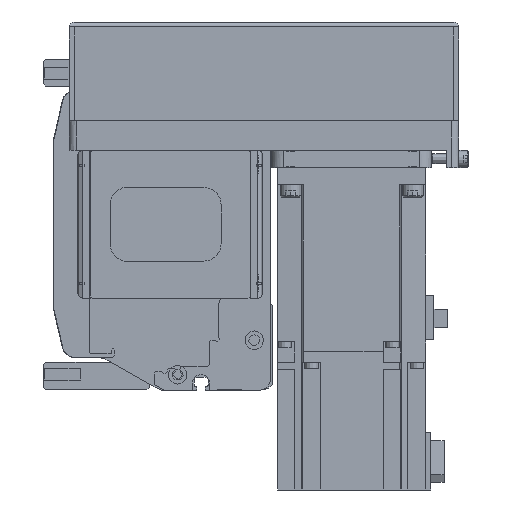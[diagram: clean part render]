
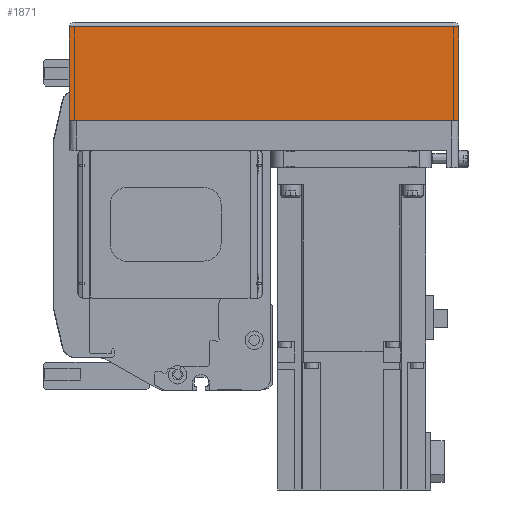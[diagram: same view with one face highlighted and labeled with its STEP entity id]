
A CAD part, left-side view. The second image highlights one B-rep face of the part: STEP entity #1871.
In plain terms, the highlighted planar face has unit normal (-1, 0, 0) as drawn and (0, -1, 0) by its records, which use the part's own axes.
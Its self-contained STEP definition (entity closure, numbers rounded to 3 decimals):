
#1871 = ADVANCED_FACE( '', ( #4635 ), #4636, .T. );
#4635 = FACE_OUTER_BOUND( '', #8635, .T. );
#4636 = PLANE( '', #8636 );
#8635 = EDGE_LOOP( '', ( #14138, #14139, #14140, #14141 ) );
#8636 = AXIS2_PLACEMENT_3D( '', #14142, #14143, #14144 );
#14138 = ORIENTED_EDGE( '', *, *, #23180, .F. );
#14139 = ORIENTED_EDGE( '', *, *, #23524, .F. );
#14140 = ORIENTED_EDGE( '', *, *, #23525, .T. );
#14141 = ORIENTED_EDGE( '', *, *, #23526, .T. );
#14142 = CARTESIAN_POINT( '', ( -158., -39., -12.1 ) );
#14143 = DIRECTION( '', ( 0., -1., 0. ) );
#14144 = DIRECTION( '', ( 0., 0., -1. ) );
#23180 = EDGE_CURVE( '', #27999, #28001, #28002, .T. );
#23524 = EDGE_CURVE( '', #28553, #27999, #28554, .T. );
#23525 = EDGE_CURVE( '', #28553, #28294, #28555, .T. );
#23526 = EDGE_CURVE( '', #28294, #28001, #28556, .T. );
#27999 = VERTEX_POINT( '', #35686 );
#28001 = VERTEX_POINT( '', #35689 );
#28002 = LINE( '', #35690, #35691 );
#28294 = VERTEX_POINT( '', #36123 );
#28553 = VERTEX_POINT( '', #36487 );
#28554 = LINE( '', #36488, #36489 );
#28555 = LINE( '', #36490, #36491 );
#28556 = LINE( '', #36492, #36493 );
#35686 = CARTESIAN_POINT( '', ( 0., -39., -12.1 ) );
#35689 = CARTESIAN_POINT( '', ( 0., -39., -50. ) );
#35690 = CARTESIAN_POINT( '', ( 0., -39., -12.1 ) );
#35691 = VECTOR( '', #43086, 1000. );
#36123 = CARTESIAN_POINT( '', ( -158., -39., -50. ) );
#36487 = CARTESIAN_POINT( '', ( -158., -39., -12.1 ) );
#36488 = CARTESIAN_POINT( '', ( -158., -39., -12.1 ) );
#36489 = VECTOR( '', #43540, 1000. );
#36490 = CARTESIAN_POINT( '', ( -158., -39., -12.1 ) );
#36491 = VECTOR( '', #43541, 1000. );
#36492 = CARTESIAN_POINT( '', ( -158., -39., -50. ) );
#36493 = VECTOR( '', #43542, 1000. );
#43086 = DIRECTION( '', ( 0., 0., -1. ) );
#43540 = DIRECTION( '', ( 1., 0., 0. ) );
#43541 = DIRECTION( '', ( 0., 0., -1. ) );
#43542 = DIRECTION( '', ( 1., 0., 0. ) );
